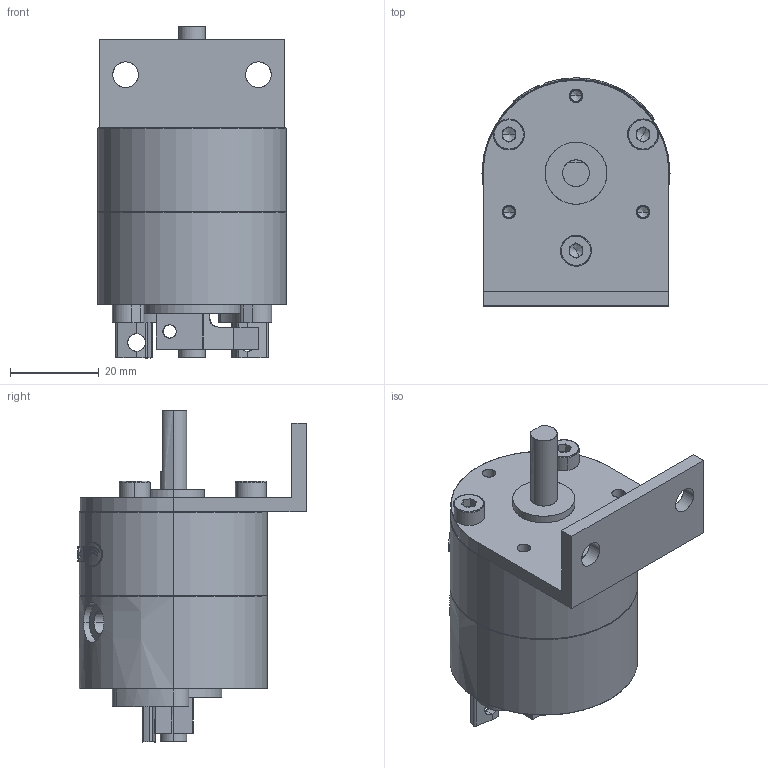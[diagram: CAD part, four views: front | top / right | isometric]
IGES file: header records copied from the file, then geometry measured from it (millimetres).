
Start section: SolidWorks IGES file using analytic representation for surfaces
Global section: file name: C:\Users\Chieh_Lu\Dropbox\¤u§@«Ç\PRO\PROA10S\PROA10S-#-#\PROA10S-#-#-L1.IGS; native system: SolidWorks 2014; preprocessor: SolidWorks 2014; author: Chieh_Lu; date: 150731.005825; units: millimetre
Bounding box: 42.5 x 51.55 x 75 mm (x, y, z)
Surface area: 24411 mm2 (no closed solid volume)
Topology: 0 solids, 0 shells, 456 faces, 6994 edges, 6978 vertices
Faces by surface type: bspline 231, revolution 225
